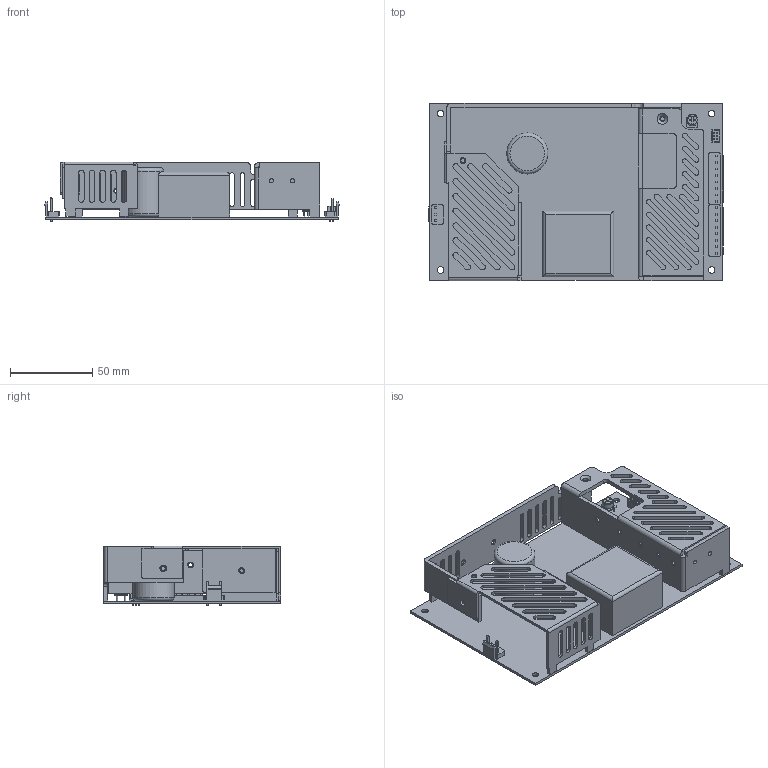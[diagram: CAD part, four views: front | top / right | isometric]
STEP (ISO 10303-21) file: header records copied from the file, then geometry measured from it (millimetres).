
FILE_DESCRIPTION((''),'2;1');
FILE_NAME('W:\mechanical\機構工程圖\3D圖檔\3D Outline-2020\已完成待審核\MPD,MPQ-200.stp','2020-06-29T10:58:31',('shirley'),(''),'Autodesk Inventor 2010','Autodesk Inventor 2010','');
FILE_SCHEMA(('AUTOMOTIVE_DESIGN { 1 0 10303 214 1 1 1 1 }'));
Length unit declared in the file: millimetre
Products named in the file (16): MPD-200; PCB; JS-1120-03N2; CN1; PIN_CPY; PIN_CPY_CPY; JS-1120-08; JS-1120-09_CPY; DF11-6DP-2DSA; DF11-6DP-2DSA_X_8A_S_H_X_97_S__; VR-1; C5; T1; HS1; HS2; HS3
Assembly tree (15 placements, depth 3):
  MPD-200
    PCB
    JS-1120-03N2
      CN1
      PIN_CPY
      PIN_CPY_CPY
    JS-1120-08
    JS-1120-09_CPY
    DF11-6DP-2DSA
      DF11-6DP-2DSA_X_8A_S_H_X_97_S__
    VR-1
    C5
    T1
    HS1
    HS2
    HS3
Bounding box: 179.28 x 108.27 x 36.5 mm (x, y, z)
Volume: 128954.7 mm3; surface area: 92369.5 mm2
Topology: 13 solids, 13 shells, 697 faces, 2139 edges, 1798 vertices
Faces by surface type: plane 493, cylinder 173, torus 16, bspline 15
Full cylindrical faces by diameter (mm): 0.8 x3, 2.5 x13, 3.5 x2, 3.96 x4, 4 x1, 4.1 x1, 6.747 x1, 25 x1
Entity records: 26559 total; most frequent: CARTESIAN_POINT 5741, DIRECTION 3891, ORIENTED_EDGE 3570, EDGE_CURVE 1785, VECTOR 1669, LINE 1669, VERTEX_POINT 1188, AXIS2_PLACEMENT_3D 1111
